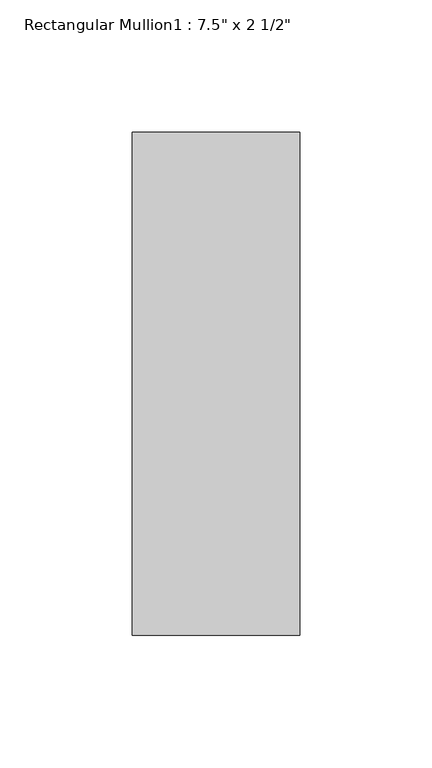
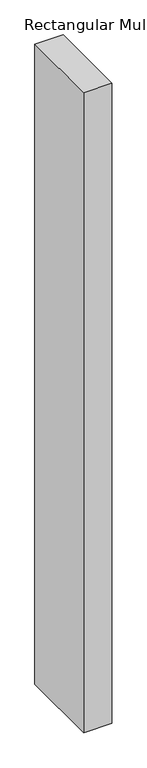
"""IFC4 building model written with IfcOpenShell, lengths in millimetres: member geometry."""

from ifc_helpers import new_model, si_unit, frame, origin, place, context, project, spatial, polyline, outline, extrude, source, transform, mapped, element, save


def member_5dd9be60(model_context):
    return source(origin(), model_context, "Body", "SweptSolid", [
        extrude(outline(polyline([(-63.5, 165.1), (0.0, 165.1), (0.0, -25.4), (-63.5, -25.4), (-63.5, 165.1)])), frame((0.0, 0.0, -1524.0), z_axis=(0.0, 0.0, 1.0), x_axis=(1.0, 0.0, 0.0)), (0.0, 0.0, 1.0), 1524.0),
    ])


if __name__ == "__main__":
    model = new_model("IFC4")
    model_context = context("Model", 3, world=origin())
    ifc_project = project(units=[si_unit("LENGTHUNIT", "METRE", prefix="MILLI")], contexts=[model_context])
    site = spatial("IfcSite", under=ifc_project)
    building = spatial("IfcBuilding", under=site)
    placement = place(None, origin())
    member_shape = member_5dd9be60(model_context)
    element("IfcMember", 1, ObjectType="Rectangular Mullion1 : 7.5\" x 2 1/2\"", at=placement, inside=building, context=model_context, shape_type="MappedRepresentation", body=[
        mapped(member_shape, transform((0.0, 0.0, 0.0), x_axis=(1.0, 0.0, 0.0), y_axis=(0.0, 1.0, 0.0), z_axis=(0.0, 0.0, 1.0))),
    ])
    save(model, "model.ifc")
